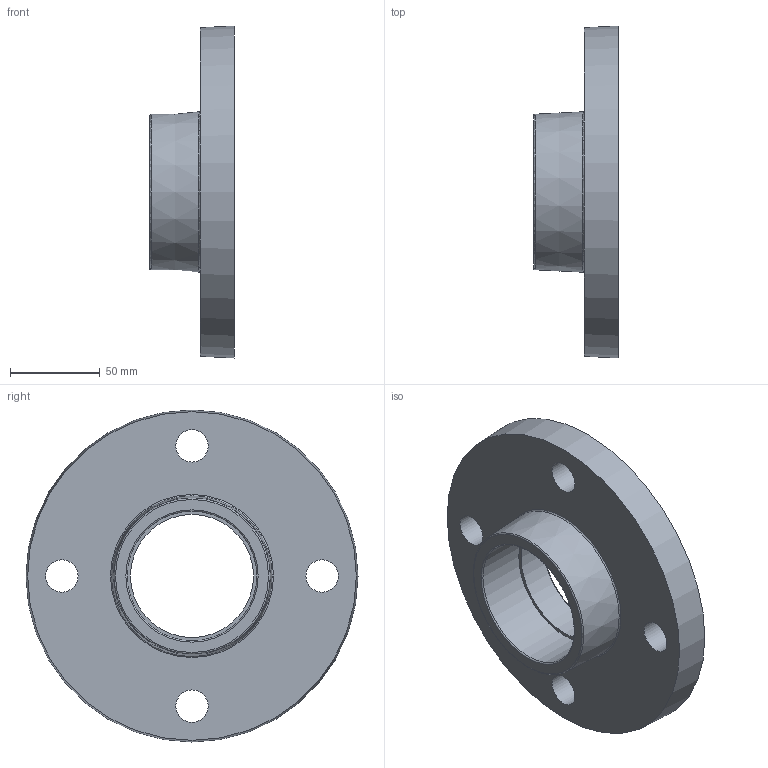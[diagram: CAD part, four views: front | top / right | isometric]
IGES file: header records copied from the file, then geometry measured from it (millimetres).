
Global section: file name: 059201025.ipt; native system: Autodesk Inventor 2015; preprocessor: unknown; author: KIM; date: 20171207.170014; units: millimetre
Bounding box: 47 x 185 x 185 mm (x, y, z)
Volume: 471071.9 mm3; surface area: 77173.3 mm2
Topology: 1 solids, 1 shells, 28 faces, 62 edges, 44 vertices
Faces by surface type: revolution 13, plane 10, cylinder 3, cone 2
Full cylindrical faces by diameter (mm): 71.909 x1, 75.609 x1, 79.309 x1
